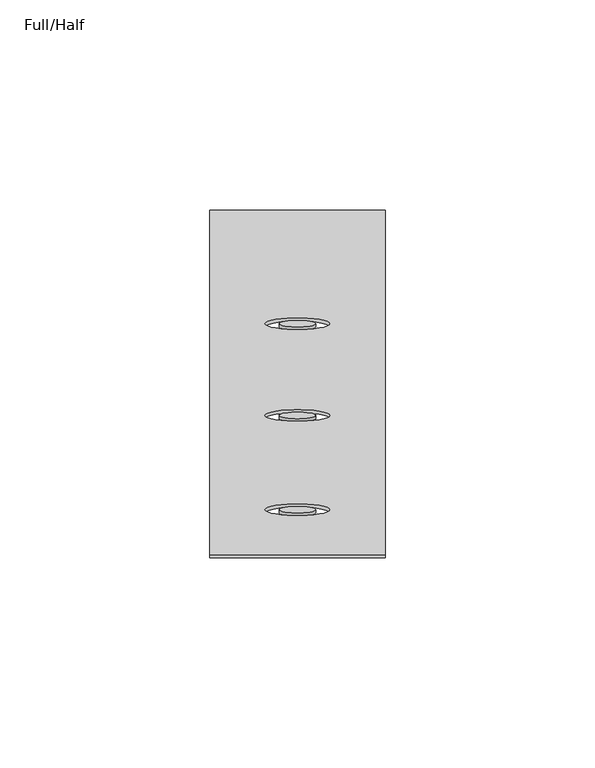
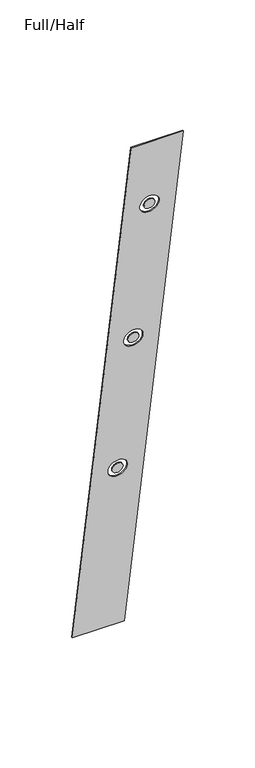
"""IFC4 building model written with IfcOpenShell, lengths in millimetres: furniture geometry, Steelcase Turnstone - Bivi - Table - Leg Cover : Full/Half."""

from ifc_helpers import new_model, si_unit, point, frame, frame_2d, origin, place, context, project, spatial, polyline, circle_curve, trimmed, segment, composite_curve, outline, extrude, source, transform, mapped, element, save


def full_half_34de2e61(model_context):
    return source(origin(), model_context, "Body", "SweptSolid", [
        extrude(outline(polyline([(41.7834961, 0.0), (0.0, 0.0), (0.0, 473.7102312), (41.7834961, 473.7102312), (41.7834961, 0.0)]), holes=[composite_curve([segment(trimmed(circle_curve(frame_2d((20.8958691, 61.9682185)), 7.7534661), [point((13.142403, 61.9682185))], [point((28.6493353, 61.9682185))], True, "CARTESIAN"), True, "CONTINUOUS"), segment(trimmed(circle_curve(frame_2d((20.8958691, 61.9682185)), 7.7534661), [point((28.6493353, 61.9682185))], [point((13.142403, 61.9682185))], True, "CARTESIAN"), True, "CONTINUOUS")], self_intersect=False), composite_curve([segment(trimmed(circle_curve(frame_2d((20.8958905, 191.5821275)), 7.7534661), [point((13.1424244, 191.5821275))], [point((28.6493566, 191.5821275))], True, "CARTESIAN"), True, "CONTINUOUS"), segment(trimmed(circle_curve(frame_2d((20.8958905, 191.5821275)), 7.7534661), [point((28.6493566, 191.5821275))], [point((13.1424244, 191.5821275))], True, "CARTESIAN"), True, "CONTINUOUS")], self_intersect=False), composite_curve([segment(trimmed(circle_curve(frame_2d((20.8958948, 317.5829273)), 7.7534661), [point((13.1424287, 317.5829273))], [point((28.6493609, 317.5829273))], True, "CARTESIAN"), True, "CONTINUOUS"), segment(trimmed(circle_curve(frame_2d((20.8958948, 317.5829273)), 7.7534661), [point((28.6493609, 317.5829273))], [point((13.1424287, 317.5829273))], True, "CARTESIAN"), True, "CONTINUOUS")], self_intersect=False)]), frame((3.6659394, -117.2062601, 490.2236317), z_axis=(0.0, 0.9848113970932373, 0.17362750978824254), x_axis=(1.0, 0.0, 0.0)), (0.0, 0.0, 1.0), 0.7594233),
        extrude(outline(composite_curve([segment(trimmed(circle_curve(frame_2d((20.8958691, 61.9682185)), 4.3853305), [point((16.5105386, 61.9682185))], [point((25.2811997, 61.9682185))], False, "CARTESIAN"), True, "CONTINUOUS"), segment(trimmed(circle_curve(frame_2d((20.8958691, 61.9682185)), 4.3853305), [point((25.2811997, 61.9682185))], [point((16.5105386, 61.9682185))], False, "CARTESIAN"), True, "CONTINUOUS")], self_intersect=False)), frame((3.6659394, -117.2062601, 490.2236317), z_axis=(0.0, 0.9848113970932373, 0.17362750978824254), x_axis=(1.0, 0.0, 0.0)), (0.0, 0.0, 1.0), 0.7594233),
        extrude(outline(composite_curve([segment(trimmed(circle_curve(frame_2d((20.8958905, 191.5821275)), 4.3853305), [point((16.51056, 191.5821275))], [point((25.281221, 191.5821275))], False, "CARTESIAN"), True, "CONTINUOUS"), segment(trimmed(circle_curve(frame_2d((20.8958905, 191.5821275)), 4.3853305), [point((25.281221, 191.5821275))], [point((16.51056, 191.5821275))], False, "CARTESIAN"), True, "CONTINUOUS")], self_intersect=False)), frame((3.6659394, -117.2062601, 490.2236317), z_axis=(0.0, 0.9848113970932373, 0.17362750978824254), x_axis=(1.0, 0.0, 0.0)), (0.0, 0.0, 1.0), 0.7594233),
        extrude(outline(composite_curve([segment(trimmed(circle_curve(frame_2d((20.8958948, 317.5829273)), 4.3853305), [point((16.5105643, 317.5829273))], [point((25.2812253, 317.5829273))], False, "CARTESIAN"), True, "CONTINUOUS"), segment(trimmed(circle_curve(frame_2d((20.8958948, 317.5829273)), 4.3853305), [point((25.2812253, 317.5829273))], [point((16.5105643, 317.5829273))], False, "CARTESIAN"), True, "CONTINUOUS")], self_intersect=False)), frame((3.6659394, -117.2062601, 490.2236317), z_axis=(0.0, 0.9848113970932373, 0.17362750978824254), x_axis=(1.0, 0.0, 0.0)), (0.0, 0.0, 1.0), 0.7594233),
    ])


if __name__ == "__main__":
    model = new_model("IFC4")
    model_context = context("Model", 3, world=origin())
    ifc_project = project(units=[si_unit("LENGTHUNIT", "METRE", prefix="MILLI")], contexts=[model_context])
    site = spatial("IfcSite", under=ifc_project)
    building = spatial("IfcBuilding", under=site)
    placement = place(None, origin())
    full_half_shape = full_half_34de2e61(model_context)
    element("IfcFurniture", 1, ObjectType="Steelcase Turnstone - Bivi - Table - Leg Cover : Full/Half", at=placement, inside=building, context=model_context, shape_type="MappedRepresentation", body=[
        mapped(full_half_shape, transform((0.0, 0.0, 0.0), x_axis=(1.0, 0.0, 0.0), y_axis=(0.0, 1.0, 0.0), z_axis=(0.0, 0.0, 1.0))),
    ])
    save(model, "model.ifc")
